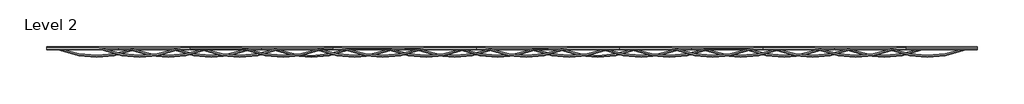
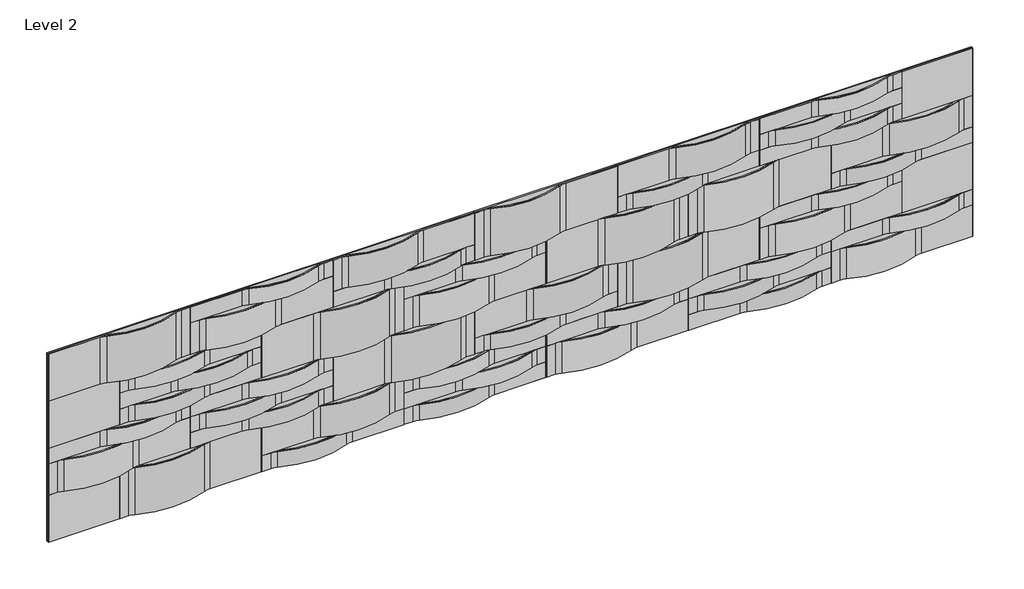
# One storey: 28 proxies.
"""IFC4 building model written with IfcOpenShell, lengths in millimetres."""

from ifc_helpers import new_model, si_unit, origin, place, context, project, spatial, transform, mapped, element, save
from components import arc_a_e282a2cc, arc_a_f8c55607, arc_b_0d72effc, arc_b_c4def8db, arc_c_c8814b8a, arc_c_3215f3ed, arc_e_2cae81dc

model = new_model("IFC4")

# Units and contexts
model_context = context("Model", 3, world=origin())
ifc_project = project(units=[si_unit("LENGTHUNIT", "METRE", prefix="MILLI")], contexts=[model_context])

# Site, building, storey
site = spatial("IfcSite", under=ifc_project)
building = spatial("IfcBuilding", under=site)
storey = spatial("IfcBuildingStorey", under=building, Name="Level 2", Elevation=4000.0)

# Proxies
placement = place(None, origin())
arc_a_shape = arc_a_e282a2cc(model_context)
element("IfcBuildingElementProxy", 1, Name="FilzFelt_Arc : Arc A", ObjectType="FilzFelt_Arc : Arc A", at=placement, inside=storey, context=model_context, shape_type="MappedRepresentation", body=[
    mapped(arc_a_shape, transform((-1342.4255169, 3373.2924064, 3128.5), x_axis=(1.0, 0.0, 0.0), y_axis=(0.0, 0.0, 1.0), z_axis=(0.0, -1.0, 0.0))),
])
arc_a_2_shape = arc_a_f8c55607(model_context)
element("IfcBuildingElementProxy", 2, Name="FilzFelt_Arc : Arc A", ObjectType="FilzFelt_Arc : Arc A", at=placement, inside=storey, context=model_context, shape_type="MappedRepresentation", body=[
    mapped(arc_a_2_shape, transform((3572.4744831, 3373.2924064, 3509.5), x_axis=(-1.0, 0.0, 0.0), y_axis=(0.0, 0.0, -1.0), z_axis=(0.0, -1.0, 0.0))),
])
element("IfcBuildingElementProxy", 3, Name="FilzFelt_Arc : Arc A", ObjectType="FilzFelt_Arc : Arc A", at=placement, inside=storey, context=model_context, shape_type="MappedRepresentation", body=[
    mapped(arc_a_2_shape, transform((-796.3255169, 3373.2924064, 2747.5), x_axis=(-1.0, 0.0, 0.0), y_axis=(0.0, 0.0, -1.0), z_axis=(0.0, -1.0, 0.0))),
])
element("IfcBuildingElementProxy", 4, Name="FilzFelt_Arc : Arc A", ObjectType="FilzFelt_Arc : Arc A", at=placement, inside=storey, context=model_context, shape_type="MappedRepresentation", body=[
    mapped(arc_a_2_shape, transform((841.9744831, 3373.2924064, 2366.5), x_axis=(1.0, 0.0, 0.0), y_axis=(0.0, 0.0, 1.0), z_axis=(0.0, -1.0, 0.0))),
])
element("IfcBuildingElementProxy", 5, Name="FilzFelt_Arc : Arc A", ObjectType="FilzFelt_Arc : Arc A", at=placement, inside=storey, context=model_context, shape_type="MappedRepresentation", body=[
    mapped(arc_a_2_shape, transform((3026.3744831, 3373.2924064, 2366.5), x_axis=(-1.0, 0.0, 0.0), y_axis=(0.0, 0.0, -1.0), z_axis=(0.0, -1.0, 0.0))),
])
arc_b_shape = arc_b_0d72effc(model_context)
element("IfcBuildingElementProxy", 6, Name="FilzFelt_Arc : Arc B", ObjectType="FilzFelt_Arc : Arc B", at=placement, inside=storey, context=model_context, shape_type="MappedRepresentation", body=[
    mapped(arc_b_shape, transform((-796.3255169, 3373.2924064, 3509.5), x_axis=(-1.0, 0.0, 0.0), y_axis=(0.0, 0.0, -1.0), z_axis=(0.0, -1.0, 0.0))),
])
element("IfcBuildingElementProxy", 7, Name="FilzFelt_Arc : Arc B", ObjectType="FilzFelt_Arc : Arc B", at=placement, inside=storey, context=model_context, shape_type="MappedRepresentation", body=[
    mapped(arc_b_shape, transform((2480.2744831, 3373.2924064, 3509.5), x_axis=(1.0, 0.0, 0.0), y_axis=(0.0, 0.0, 1.0), z_axis=(0.0, -1.0, 0.0))),
])
element("IfcBuildingElementProxy", 8, Name="FilzFelt_Arc : Arc B", ObjectType="FilzFelt_Arc : Arc B", at=placement, inside=storey, context=model_context, shape_type="MappedRepresentation", body=[
    mapped(arc_b_shape, transform((4118.5744831, 3373.2924064, 3128.5), x_axis=(1.0, 0.0, 0.0), y_axis=(0.0, 0.0, 1.0), z_axis=(0.0, -1.0, 0.0))),
])
element("IfcBuildingElementProxy", 9, Name="FilzFelt_Arc : Arc B", ObjectType="FilzFelt_Arc : Arc B", at=placement, inside=storey, context=model_context, shape_type="MappedRepresentation", body=[
    mapped(arc_b_shape, transform((841.9744831, 3373.2924064, 3128.5), x_axis=(-1.0, 0.0, 0.0), y_axis=(0.0, 0.0, -1.0), z_axis=(0.0, -1.0, 0.0))),
])
element("IfcBuildingElementProxy", 10, Name="FilzFelt_Arc : Arc B", ObjectType="FilzFelt_Arc : Arc B", at=placement, inside=storey, context=model_context, shape_type="MappedRepresentation", body=[
    mapped(arc_b_shape, transform((-1888.5255169, 3373.2924064, 2747.5), x_axis=(-1.0, 0.0, 0.0), y_axis=(0.0, 0.0, -1.0), z_axis=(0.0, -1.0, 0.0))),
])
element("IfcBuildingElementProxy", 11, Name="FilzFelt_Arc : Arc B", ObjectType="FilzFelt_Arc : Arc B", at=placement, inside=storey, context=model_context, shape_type="MappedRepresentation", body=[
    mapped(arc_b_shape, transform((-250.2255169, 3373.2924064, 2366.5), x_axis=(1.0, 0.0, 0.0), y_axis=(0.0, 0.0, 1.0), z_axis=(0.0, -1.0, 0.0))),
])
element("IfcBuildingElementProxy", 12, Name="FilzFelt_Arc : Arc B", ObjectType="FilzFelt_Arc : Arc B", at=placement, inside=storey, context=model_context, shape_type="MappedRepresentation", body=[
    mapped(arc_b_shape, transform((1388.0744831, 3373.2924064, 2747.5), x_axis=(1.0, 0.0, 0.0), y_axis=(0.0, 0.0, 1.0), z_axis=(0.0, -1.0, 0.0))),
])
element("IfcBuildingElementProxy", 13, Name="FilzFelt_Arc : Arc B", ObjectType="FilzFelt_Arc : Arc B", at=placement, inside=storey, context=model_context, shape_type="MappedRepresentation", body=[
    mapped(arc_b_shape, transform((1934.1744831, 3373.2924064, 2366.5), x_axis=(-1.0, 0.0, 0.0), y_axis=(0.0, 0.0, -1.0), z_axis=(0.0, -1.0, 0.0))),
])
element("IfcBuildingElementProxy", 14, Name="FilzFelt_Arc : Arc B", ObjectType="FilzFelt_Arc : Arc B", at=placement, inside=storey, context=model_context, shape_type="MappedRepresentation", body=[
    mapped(arc_b_shape, transform((3572.4744831, 3373.2924064, 2747.5), x_axis=(-1.0, 0.0, 0.0), y_axis=(0.0, 0.0, -1.0), z_axis=(0.0, -1.0, 0.0))),
])
element("IfcBuildingElementProxy", 15, Name="FilzFelt_Arc : Arc B", ObjectType="FilzFelt_Arc : Arc B", at=placement, inside=storey, context=model_context, shape_type="MappedRepresentation", body=[
    mapped(arc_b_shape, transform((4118.5744831, 3373.2924064, 2366.5), x_axis=(-1.0, 0.0, 0.0), y_axis=(0.0, 0.0, -1.0), z_axis=(0.0, -1.0, 0.0))),
])
arc_b_2_shape = arc_b_c4def8db(model_context)
element("IfcBuildingElementProxy", 16, Name="FilzFelt_Arc : Arc B", ObjectType="FilzFelt_Arc : Arc B", at=placement, inside=storey, context=model_context, shape_type="MappedRepresentation", body=[
    mapped(arc_b_2_shape, transform((295.8744831, 3373.2924064, 3509.5), x_axis=(-1.0, 0.0, 0.0), y_axis=(0.0, 0.0, -1.0), z_axis=(0.0, -1.0, 0.0))),
])
arc_c_shape = arc_c_c8814b8a(model_context)
element("IfcBuildingElementProxy", 17, Name="FilzFelt_Arc : Arc C", ObjectType="FilzFelt_Arc : Arc C", at=placement, inside=storey, context=model_context, shape_type="MappedRepresentation", body=[
    mapped(arc_c_shape, transform((1388.0744831, 3373.2924064, 3509.5), x_axis=(1.0, 0.0, 0.0), y_axis=(0.0, 0.0, 1.0), z_axis=(0.0, -1.0, 0.0))),
])
element("IfcBuildingElementProxy", 18, Name="FilzFelt_Arc : Arc C", ObjectType="FilzFelt_Arc : Arc C", at=placement, inside=storey, context=model_context, shape_type="MappedRepresentation", body=[
    mapped(arc_c_shape, transform((-1342.4255169, 3373.2924064, 2366.5), x_axis=(1.0, 0.0, 0.0), y_axis=(0.0, 0.0, 1.0), z_axis=(0.0, -1.0, 0.0))),
])
element("IfcBuildingElementProxy", 19, Name="FilzFelt_Arc : Arc C", ObjectType="FilzFelt_Arc : Arc C", at=placement, inside=storey, context=model_context, shape_type="MappedRepresentation", body=[
    mapped(arc_c_shape, transform((2480.2744831, 3373.2924064, 2747.5), x_axis=(1.0, 0.0, 0.0), y_axis=(0.0, 0.0, 1.0), z_axis=(0.0, -1.0, 0.0))),
])
arc_c_2_shape = arc_c_3215f3ed(model_context)
element("IfcBuildingElementProxy", 20, Name="FilzFelt_Arc : Arc C", ObjectType="FilzFelt_Arc : Arc C", at=placement, inside=storey, context=model_context, shape_type="MappedRepresentation", body=[
    mapped(arc_c_2_shape, transform((-1888.5255169, 3373.2924064, 3509.5), x_axis=(-1.0, 0.0, 0.0), y_axis=(0.0, 0.0, -1.0), z_axis=(0.0, -1.0, 0.0))),
])
element("IfcBuildingElementProxy", 21, Name="FilzFelt_Arc : Arc C", ObjectType="FilzFelt_Arc : Arc C", at=placement, inside=storey, context=model_context, shape_type="MappedRepresentation", body=[
    mapped(arc_c_2_shape, transform((3026.3744831, 3373.2924064, 3128.5), x_axis=(1.0, 0.0, 0.0), y_axis=(0.0, 0.0, 1.0), z_axis=(0.0, -1.0, 0.0))),
])
element("IfcBuildingElementProxy", 22, Name="FilzFelt_Arc : Arc C", ObjectType="FilzFelt_Arc : Arc C", at=placement, inside=storey, context=model_context, shape_type="MappedRepresentation", body=[
    mapped(arc_c_2_shape, transform((1934.1744831, 3373.2924064, 3128.5), x_axis=(-1.0, 0.0, 0.0), y_axis=(0.0, 0.0, -1.0), z_axis=(0.0, -1.0, 0.0))),
])
element("IfcBuildingElementProxy", 23, Name="FilzFelt_Arc : Arc C", ObjectType="FilzFelt_Arc : Arc C", at=placement, inside=storey, context=model_context, shape_type="MappedRepresentation", body=[
    mapped(arc_c_2_shape, transform((-250.2255169, 3373.2924064, 3128.5), x_axis=(-1.0, 0.0, 0.0), y_axis=(0.0, 0.0, -1.0), z_axis=(0.0, -1.0, 0.0))),
])
element("IfcBuildingElementProxy", 24, Name="FilzFelt_Arc : Arc C", ObjectType="FilzFelt_Arc : Arc C", at=placement, inside=storey, context=model_context, shape_type="MappedRepresentation", body=[
    mapped(arc_c_2_shape, transform((295.8744831, 3373.2924064, 2747.5), x_axis=(-1.0, 0.0, 0.0), y_axis=(0.0, 0.0, -1.0), z_axis=(0.0, -1.0, 0.0))),
])
arc_e_shape = arc_e_2cae81dc(model_context)
element("IfcBuildingElementProxy", 25, Name="FilzFelt_Arc : Arc E", ObjectType="FilzFelt_Arc : Arc E", at=placement, inside=storey, context=model_context, shape_type="MappedRepresentation", body=[
    mapped(arc_e_shape, transform((4391.6244831, 3373.2924064, 3509.5), x_axis=(1.0, 0.0, 0.0), y_axis=(0.0, 0.0, 1.0), z_axis=(0.0, -1.0, 0.0))),
])
element("IfcBuildingElementProxy", 26, Name="FilzFelt_Arc : Arc E", ObjectType="FilzFelt_Arc : Arc E", at=placement, inside=storey, context=model_context, shape_type="MappedRepresentation", body=[
    mapped(arc_e_shape, transform((4391.6244831, 3373.2924064, 2747.5), x_axis=(1.0, 0.0, 0.0), y_axis=(0.0, 0.0, 1.0), z_axis=(0.0, -1.0, 0.0))),
])
element("IfcBuildingElementProxy", 27, Name="FilzFelt_Arc : Arc E", ObjectType="FilzFelt_Arc : Arc E", at=placement, inside=storey, context=model_context, shape_type="MappedRepresentation", body=[
    mapped(arc_e_shape, transform((-2161.5755169, 3373.2924064, 3128.5), x_axis=(1.0, 0.0, 0.0), y_axis=(0.0, 0.0, 1.0), z_axis=(0.0, -1.0, 0.0))),
])
element("IfcBuildingElementProxy", 28, Name="FilzFelt_Arc : Arc E", ObjectType="FilzFelt_Arc : Arc E", at=placement, inside=storey, context=model_context, shape_type="MappedRepresentation", body=[
    mapped(arc_e_shape, transform((-2161.5755169, 3373.2924064, 2366.5), x_axis=(1.0, 0.0, 0.0), y_axis=(0.0, 0.0, 1.0), z_axis=(0.0, -1.0, 0.0))),
])

save(model, "model.ifc")
